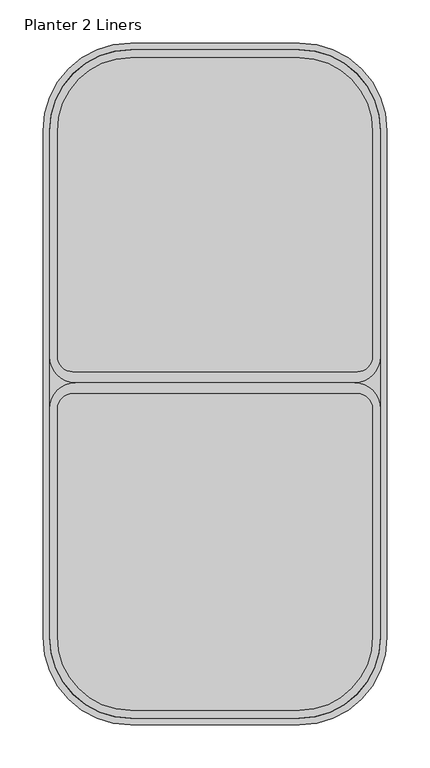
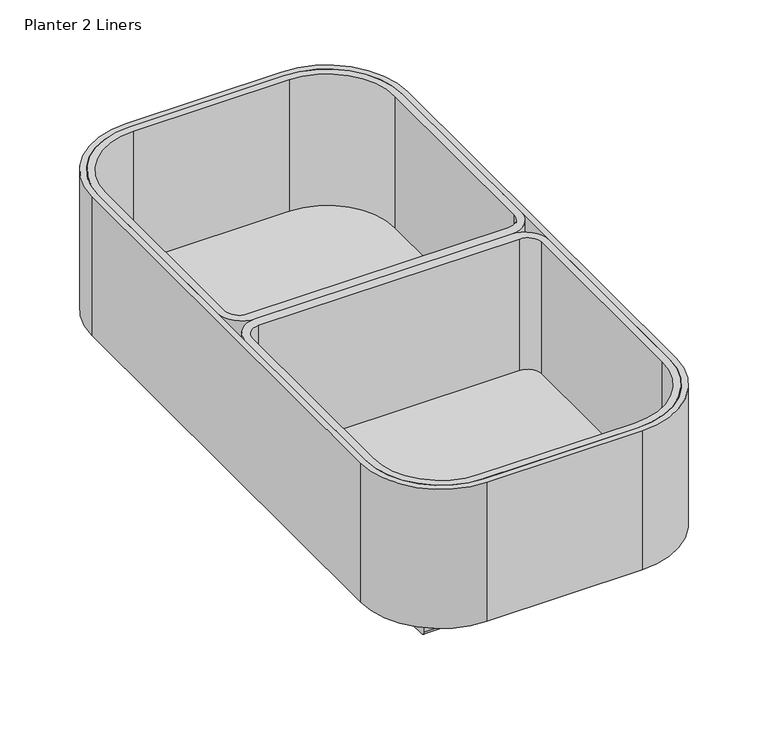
"""IFC4 building model written with IfcOpenShell, lengths in millimetres: furniture geometry, Coalesse_AM_Accessory_Planter_Ensemble_Modular : Planter 2 Liners."""

from ifc_helpers import new_model, si_unit, point, frame, frame_2d, origin, place, context, project, spatial, polyline, circle_curve, trimmed, segment, composite_curve, outline, extrude, source, transform, mapped, element, save


def planter_2_liners_fdd25d95(model_context):
    return source(origin(), model_context, "Body", "SweptSolid", [
        extrude(outline(composite_curve([segment(trimmed(circle_curve(frame_2d((-303.8321315, 707.9918722)), 95.25), [point((-399.0821315, 707.9918722))], [point((-303.8321315, 803.2418722))], False, "CARTESIAN"), True, "CONTINUOUS"), segment(polyline([(-303.8321315, 803.2418722), (-109.5250383, 803.2418722)]), True, "CONTINUOUS"), segment(trimmed(circle_curve(frame_2d((-109.5250383, 707.9918722)), 95.25), [point((-109.5250383, 803.2418722))], [point((-14.2750383, 707.9918722))], False, "CARTESIAN"), True, "CONTINUOUS"), segment(polyline([(-14.2750383, 707.9918722), (-14.2750383, 120.3961637)]), True, "CONTINUOUS"), segment(trimmed(circle_curve(frame_2d((-108.2550383, 120.3961637)), 93.98), [point((-14.2750383, 120.3961637))], [point((-108.2550383, 26.4161637))], False, "CARTESIAN"), True, "CONTINUOUS"), segment(polyline([(-108.2550383, 26.4161637), (-305.1021315, 26.4161637)]), True, "CONTINUOUS"), segment(trimmed(circle_curve(frame_2d((-305.1021315, 120.3961637)), 93.98), [point((-305.1021315, 26.4161637))], [point((-399.0821315, 120.3961637))], False, "CARTESIAN"), True, "CONTINUOUS"), segment(polyline([(-399.0821315, 120.3961637), (-399.0821315, 707.9918722)]), True, "CONTINUOUS")], self_intersect=False)), frame((0.0, 0.0, 131.1254356), z_axis=(0.0, 0.0, 1.0), x_axis=(1.0, 0.0, 0.0)), (0.0, 0.0, 1.0), 10.0545105),
        extrude(outline(composite_curve([segment(trimmed(circle_curve(frame_2d((-44.7550383, 385.8819626)), 30.48), [point((-44.7550383, 416.3619626))], [point((-14.2750383, 385.8819626))], False, "CARTESIAN"), True, "CONTINUOUS"), segment(polyline([(-14.2750383, 385.8819626), (-14.2750383, 121.6661637)]), True, "CONTINUOUS"), segment(trimmed(circle_curve(frame_2d((-109.5250383, 121.6661637)), 95.25), [point((-14.2750383, 121.6661637))], [point((-109.5250383, 26.4161637))], False, "CARTESIAN"), True, "CONTINUOUS"), segment(polyline([(-109.5250383, 26.4161637), (-303.8321315, 26.4161637)]), True, "CONTINUOUS"), segment(trimmed(circle_curve(frame_2d((-303.8321315, 121.6661637)), 95.25), [point((-303.8321315, 26.4161637))], [point((-399.0821315, 121.6661637))], False, "CARTESIAN"), True, "CONTINUOUS"), segment(polyline([(-399.0821315, 121.6661637), (-399.0821315, 385.8819626)]), True, "CONTINUOUS"), segment(trimmed(circle_curve(frame_2d((-368.6021315, 385.8819626)), 30.48), [point((-399.0821315, 385.8819626))], [point((-368.6021315, 416.3619626))], False, "CARTESIAN"), True, "CONTINUOUS"), segment(polyline([(-368.6021315, 416.3619626), (-44.7550383, 416.3619626)]), True, "CONTINUOUS")], self_intersect=False), holes=[composite_curve([segment(polyline([(-305.1021315, 35.9411637), (-108.2550383, 35.9411637)]), True, "CONTINUOUS"), segment(trimmed(circle_curve(frame_2d((-108.2550383, 120.5865272)), 84.6453635), [point((-108.2550383, 35.9411637))], [point((-23.6165604, 121.6661637))], True, "CARTESIAN"), True, "CONTINUOUS"), segment(polyline([(-23.6165604, 121.6661637), (-23.6165604, 385.8819626)]), True, "CONTINUOUS"), segment(trimmed(circle_curve(frame_2d((-41.3965604, 385.8819626)), 17.78), [point((-23.6165604, 385.8819626))], [point((-41.3965604, 403.6619626))], True, "CARTESIAN"), True, "CONTINUOUS"), segment(polyline([(-41.3965604, 403.6619626), (-371.9057041, 403.6619626)]), True, "CONTINUOUS"), segment(trimmed(circle_curve(frame_2d((-371.9057041, 385.8819626)), 17.78), [point((-371.9057041, 403.6619626))], [point((-389.6857041, 385.8819626))], True, "CARTESIAN"), True, "CONTINUOUS"), segment(polyline([(-389.6857041, 385.8819626), (-389.6857041, 121.6661637)]), True, "CONTINUOUS"), segment(trimmed(circle_curve(frame_2d((-305.1021315, 120.5323354)), 84.5911716), [point((-389.6857041, 121.6661637))], [point((-305.1021315, 35.9411637))], True, "CARTESIAN"), True, "CONTINUOUS")], self_intersect=False)]), frame((0.0, 0.0, 141.179946), z_axis=(0.0, 0.0, 1.0), x_axis=(1.0, 0.0, 0.0)), (0.0, 0.0, 1.0), 176.278838),
        extrude(outline(composite_curve([segment(polyline([(-44.7550383, 416.3619626), (-368.6021315, 416.3619626)]), True, "CONTINUOUS"), segment(trimmed(circle_curve(frame_2d((-368.6021315, 446.8419626)), 30.48), [point((-368.6021315, 416.3619626))], [point((-399.0821315, 446.8419626))], False, "CARTESIAN"), True, "CONTINUOUS"), segment(polyline([(-399.0821315, 446.8419626), (-399.0821315, 707.9918722)]), True, "CONTINUOUS"), segment(trimmed(circle_curve(frame_2d((-303.8321315, 707.9918722)), 95.25), [point((-399.0821315, 707.9918722))], [point((-303.8321315, 803.2418722))], False, "CARTESIAN"), True, "CONTINUOUS"), segment(polyline([(-303.8321315, 803.2418722), (-109.5250383, 803.2418722)]), True, "CONTINUOUS"), segment(trimmed(circle_curve(frame_2d((-109.5250383, 707.9918722)), 95.25), [point((-109.5250383, 803.2418722))], [point((-14.2750383, 707.9918722))], False, "CARTESIAN"), True, "CONTINUOUS"), segment(polyline([(-14.2750383, 707.9918722), (-14.2750383, 446.8419626)]), True, "CONTINUOUS"), segment(trimmed(circle_curve(frame_2d((-44.7550383, 446.8419626)), 30.48), [point((-14.2750383, 446.8419626))], [point((-44.7550383, 416.3619626))], False, "CARTESIAN"), True, "CONTINUOUS")], self_intersect=False), holes=[composite_curve([segment(trimmed(circle_curve(frame_2d((-305.1021315, 709.1257005)), 84.5911716), [point((-305.1021315, 793.7168722))], [point((-389.6857041, 707.9918722))], True, "CARTESIAN"), True, "CONTINUOUS"), segment(polyline([(-389.6857041, 707.9918722), (-389.6857041, 446.8419626)]), True, "CONTINUOUS"), segment(trimmed(circle_curve(frame_2d((-371.9057041, 446.8419626)), 17.78), [point((-389.6857041, 446.8419626))], [point((-371.9057041, 429.0619626))], True, "CARTESIAN"), True, "CONTINUOUS"), segment(polyline([(-371.9057041, 429.0619626), (-41.3965604, 429.0619626)]), True, "CONTINUOUS"), segment(trimmed(circle_curve(frame_2d((-41.3965604, 446.8419626)), 17.78), [point((-41.3965604, 429.0619626))], [point((-23.6165604, 446.8419626))], True, "CARTESIAN"), True, "CONTINUOUS"), segment(polyline([(-23.6165604, 446.8419626), (-23.6165604, 707.9918722)]), True, "CONTINUOUS"), segment(trimmed(circle_curve(frame_2d((-108.2550383, 709.0715087)), 84.6453635), [point((-23.6165604, 707.9918722))], [point((-108.2550383, 793.7168722))], True, "CARTESIAN"), True, "CONTINUOUS"), segment(polyline([(-108.2550383, 793.7168722), (-305.1021315, 793.7168722)]), True, "CONTINUOUS")], self_intersect=False)]), frame((0.0, 0.0, 141.179946), z_axis=(0.0, 0.0, 1.0), x_axis=(1.0, 0.0, 0.0)), (0.0, 0.0, 1.0), 176.278838),
        extrude(outline(composite_curve([segment(trimmed(circle_curve(frame_2d((108.865872, 125.0107271)), 5.08), [point((103.785872, 125.0107271))], [point((108.865872, 130.0907271))], False, "CARTESIAN"), True, "CONTINUOUS"), segment(polyline([(108.865872, 130.0907271), (128.9876575, 130.0907271)]), True, "CONTINUOUS"), segment(trimmed(circle_curve(frame_2d((128.9876575, 125.0107271)), 5.08), [point((128.9876575, 130.0907271))], [point((134.0676575, 125.0107271))], False, "CARTESIAN"), True, "CONTINUOUS"), segment(polyline([(134.0676575, 125.0107271), (134.0676575, 75.5475648)]), True, "CONTINUOUS"), segment(trimmed(circle_curve(frame_2d((129.0980339, 75.5475648)), 4.9696236), [point((134.0676575, 75.5475648))], [point((129.0980339, 70.5779413))], False, "CARTESIAN"), True, "CONTINUOUS"), segment(polyline([(129.0980339, 70.5779413), (108.865872, 70.5779413)]), True, "CONTINUOUS"), segment(trimmed(circle_curve(frame_2d((108.865872, 75.6579413)), 5.08), [point((108.865872, 70.5779413))], [point((103.785872, 75.6579413))], False, "CARTESIAN"), True, "CONTINUOUS"), segment(polyline([(103.785872, 75.6579413), (103.785872, 125.0107271)]), True, "CONTINUOUS")], self_intersect=False)), frame((-335.7539124, 0.0, 0.0), z_axis=(1.0, 0.0, 0.0), x_axis=(0.0, 1.0, 0.0)), (0.0, 0.0, 1.0), 259.9987358),
        extrude(outline(composite_curve([segment(trimmed(circle_curve(frame_2d((688.6735965, 125.0107271)), 5.08), [point((683.5935965, 125.0107271))], [point((688.6735965, 130.0907271))], False, "CARTESIAN"), True, "CONTINUOUS"), segment(polyline([(688.6735965, 130.0907271), (708.795382, 130.0907271)]), True, "CONTINUOUS"), segment(trimmed(circle_curve(frame_2d((708.795382, 125.0107271)), 5.08), [point((708.795382, 130.0907271))], [point((713.875382, 125.0107271))], False, "CARTESIAN"), True, "CONTINUOUS"), segment(polyline([(713.875382, 125.0107271), (713.875382, 75.5475648)]), True, "CONTINUOUS"), segment(trimmed(circle_curve(frame_2d((708.9057584, 75.5475648)), 4.9696236), [point((713.875382, 75.5475648))], [point((708.9057584, 70.5779413))], False, "CARTESIAN"), True, "CONTINUOUS"), segment(polyline([(708.9057584, 70.5779413), (688.6735965, 70.5779413)]), True, "CONTINUOUS"), segment(trimmed(circle_curve(frame_2d((688.6735965, 75.6579413)), 5.08), [point((688.6735965, 70.5779413))], [point((683.5935965, 75.6579413))], False, "CARTESIAN"), True, "CONTINUOUS"), segment(polyline([(683.5935965, 75.6579413), (683.5935965, 125.0107271)]), True, "CONTINUOUS")], self_intersect=False)), frame((-335.7539124, 0.0, 0.0), z_axis=(1.0, 0.0, 0.0), x_axis=(0.0, 1.0, 0.0)), (0.0, 0.0, 1.0), 259.9987358),
        extrude(outline(composite_curve([segment(trimmed(circle_curve(frame_2d((-108.2550383, 709.2618722)), 101.6), [point((-108.2550383, 810.8618722))], [point((-6.6550383, 709.2618722))], False, "CARTESIAN"), True, "CONTINUOUS"), segment(polyline([(-6.6550383, 709.2618722), (-6.6550383, 120.3961637)]), True, "CONTINUOUS"), segment(trimmed(circle_curve(frame_2d((-108.2550383, 120.3961637)), 101.6), [point((-6.6550383, 120.3961637))], [point((-108.2550383, 18.7961637))], False, "CARTESIAN"), True, "CONTINUOUS"), segment(polyline([(-108.2550383, 18.7961637), (-305.1021315, 18.7961637)]), True, "CONTINUOUS"), segment(trimmed(circle_curve(frame_2d((-305.1021315, 120.3961637)), 101.6), [point((-305.1021315, 18.7961637))], [point((-406.7021315, 120.3961637))], False, "CARTESIAN"), True, "CONTINUOUS"), segment(polyline([(-406.7021315, 120.3961637), (-406.7021315, 709.2618722)]), True, "CONTINUOUS"), segment(trimmed(circle_curve(frame_2d((-305.1021315, 709.2618722)), 101.6), [point((-406.7021315, 709.2618722))], [point((-305.1021315, 810.8618722))], False, "CARTESIAN"), True, "CONTINUOUS"), segment(polyline([(-305.1021315, 810.8618722), (-108.2550383, 810.8618722)]), True, "CONTINUOUS")], self_intersect=False), holes=[composite_curve([segment(trimmed(circle_curve(frame_2d((-108.2550383, 120.3961637)), 93.98), [point((-108.2550383, 26.4161637))], [point((-14.2750383, 120.3961637))], True, "CARTESIAN"), True, "CONTINUOUS"), segment(polyline([(-14.2750383, 120.3961637), (-14.2750383, 709.2618722)]), True, "CONTINUOUS"), segment(trimmed(circle_curve(frame_2d((-108.2550383, 709.2618722)), 93.98), [point((-14.2750383, 709.2618722))], [point((-108.2550383, 803.2418722))], True, "CARTESIAN"), True, "CONTINUOUS"), segment(polyline([(-108.2550383, 803.2418722), (-305.1021315, 803.2418722)]), True, "CONTINUOUS"), segment(trimmed(circle_curve(frame_2d((-305.1021315, 709.2618722)), 93.98), [point((-305.1021315, 803.2418722))], [point((-399.0821315, 709.2618722))], True, "CARTESIAN"), True, "CONTINUOUS"), segment(polyline([(-399.0821315, 709.2618722), (-399.0821315, 120.3961637)]), True, "CONTINUOUS"), segment(trimmed(circle_curve(frame_2d((-305.1021315, 120.3961637)), 93.98), [point((-399.0821315, 120.3961637))], [point((-305.1021315, 26.4161637))], True, "CARTESIAN"), True, "CONTINUOUS"), segment(polyline([(-305.1021315, 26.4161637), (-108.2550383, 26.4161637)]), True, "CONTINUOUS")], self_intersect=False)]), frame((0.0, 0.0, 131.1254356), z_axis=(0.0, 0.0, 1.0), x_axis=(1.0, 0.0, 0.0)), (0.0, 0.0, 1.0), 186.3333484),
    ])


if __name__ == "__main__":
    model = new_model("IFC4")
    model_context = context("Model", 3, world=origin())
    ifc_project = project(units=[si_unit("LENGTHUNIT", "METRE", prefix="MILLI")], contexts=[model_context])
    site = spatial("IfcSite", under=ifc_project)
    building = spatial("IfcBuilding", under=site)
    placement = place(None, origin())
    planter_2_liners_shape = planter_2_liners_fdd25d95(model_context)
    element("IfcFurniture", 1, ObjectType="Coalesse_AM_Accessory_Planter_Ensemble_Modular : Planter 2 Liners", at=placement, inside=building, context=model_context, shape_type="MappedRepresentation", body=[
        mapped(planter_2_liners_shape, transform((0.0, 0.0, 0.0), x_axis=(1.0, 0.0, 0.0), y_axis=(0.0, 1.0, 0.0), z_axis=(0.0, 0.0, 1.0))),
    ])
    save(model, "model.ifc")
